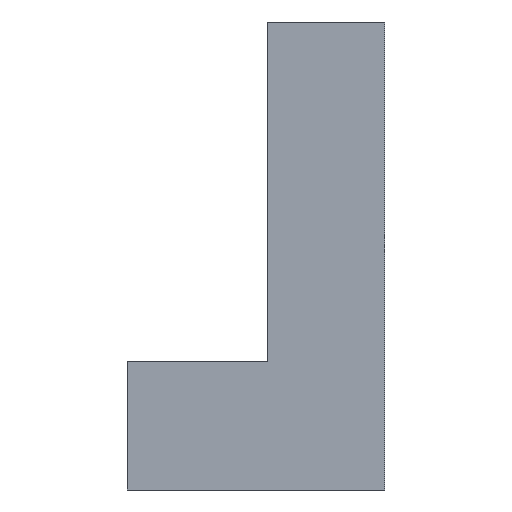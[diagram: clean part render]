
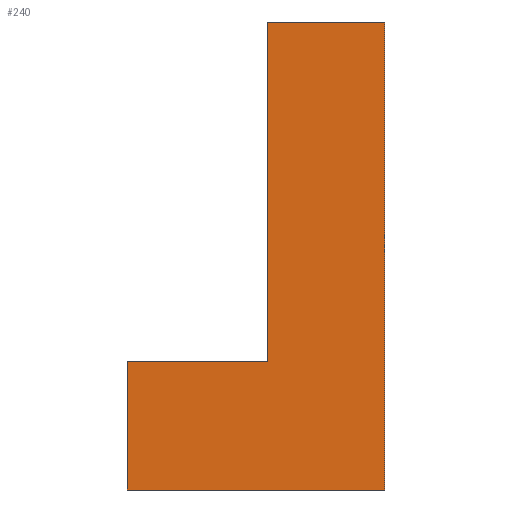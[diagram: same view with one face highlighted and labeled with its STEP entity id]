
A CAD part, left-side view. The second image highlights one B-rep face of the part: STEP entity #240.
In plain terms, the highlighted planar face has unit normal (-1, 0, 0).
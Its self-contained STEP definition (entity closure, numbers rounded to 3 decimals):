
#26=PLANE('',#276);
#40=FACE_OUTER_BOUND('',#58,.T.);
#58=EDGE_LOOP('',(#201,#202,#203,#204,#205,#206));
#70=LINE('',#376,#92);
#73=LINE('',#382,#95);
#74=LINE('',#385,#96);
#79=LINE('',#400,#101);
#80=LINE('',#401,#102);
#81=LINE('',#402,#103);
#92=VECTOR('',#310,10.);
#95=VECTOR('',#315,10.);
#96=VECTOR('',#318,10.);
#101=VECTOR('',#333,10.);
#102=VECTOR('',#334,10.);
#103=VECTOR('',#335,10.);
#124=VERTEX_POINT('',#370);
#126=VERTEX_POINT('',#374);
#128=VERTEX_POINT('',#380);
#129=VERTEX_POINT('',#384);
#133=VERTEX_POINT('',#398);
#134=VERTEX_POINT('',#399);
#148=EDGE_CURVE('',#124,#126,#70,.T.);
#151=EDGE_CURVE('',#128,#126,#73,.T.);
#152=EDGE_CURVE('',#124,#129,#74,.T.);
#159=EDGE_CURVE('',#133,#134,#79,.T.);
#160=EDGE_CURVE('',#133,#129,#80,.T.);
#161=EDGE_CURVE('',#134,#128,#81,.T.);
#201=ORIENTED_EDGE('',*,*,#159,.F.);
#202=ORIENTED_EDGE('',*,*,#160,.T.);
#203=ORIENTED_EDGE('',*,*,#152,.F.);
#204=ORIENTED_EDGE('',*,*,#148,.T.);
#205=ORIENTED_EDGE('',*,*,#151,.F.);
#206=ORIENTED_EDGE('',*,*,#161,.F.);
#240=ADVANCED_FACE('',(#40),#26,.T.);
#276=AXIS2_PLACEMENT_3D('',#397,#331,#332);
#310=DIRECTION('',(0.,1.,0.));
#315=DIRECTION('',(0.,0.,1.));
#318=DIRECTION('',(0.,0.,1.));
#331=DIRECTION('center_axis',(-1.,0.,0.));
#332=DIRECTION('ref_axis',(0.,0.,1.));
#333=DIRECTION('',(0.,0.,-1.));
#334=DIRECTION('',(0.,1.,0.));
#335=DIRECTION('',(0.,1.,0.));
#370=CARTESIAN_POINT('',(0.,5.,-14.5));
#374=CARTESIAN_POINT('',(0.,11.,-14.5));
#376=CARTESIAN_POINT('',(0.,5.,-14.5));
#380=CARTESIAN_POINT('',(0.,11.,-20.));
#382=CARTESIAN_POINT('',(0.,11.,-14.5));
#384=CARTESIAN_POINT('',(0.,5.,0.));
#385=CARTESIAN_POINT('',(0.,5.,-14.5));
#397=CARTESIAN_POINT('Origin',(0.,0.,-20.));
#398=CARTESIAN_POINT('',(0.,0.,0.));
#399=CARTESIAN_POINT('',(0.,0.,-20.));
#400=CARTESIAN_POINT('',(0.,0.,-14.5));
#401=CARTESIAN_POINT('',(0.,0.,0.));
#402=CARTESIAN_POINT('',(0.,0.,-20.));
